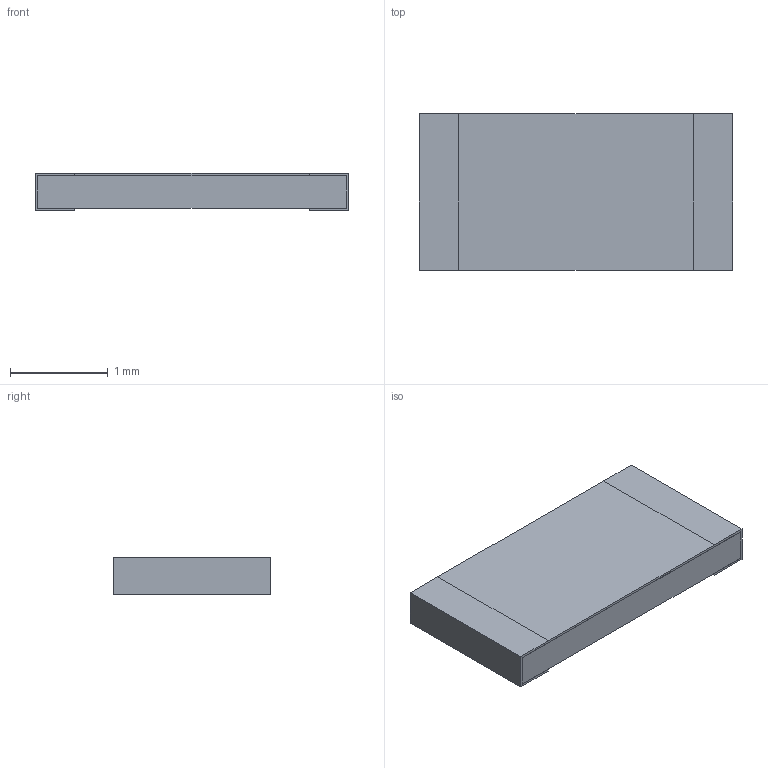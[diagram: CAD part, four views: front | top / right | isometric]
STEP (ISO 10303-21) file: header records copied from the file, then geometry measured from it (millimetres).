
FILE_DESCRIPTION(('STEP AP203'), '1');
FILE_NAME('栖闉罻', '', ('UNSPECIFIED'), ('UNSPECIFIED'), 'ASCON STEP Converter 1.6', 'ASCON Math Kernel', '');
FILE_SCHEMA(('CONFIG_CONTROL_DESIGN'));
Length unit declared in the file: millimetre
Assembly tree (1 placements, depth 2):
  (unnamed)
    (unnamed)
Bounding box: 3.2 x 1.6 x 0.38 mm (x, y, z)
Volume: 1.8 mm3; surface area: 28.8 mm2
Topology: 4 solids, 5 shells, 51 faces, 123 edges, 82 vertices
Faces by surface type: plane 47, cylinder 4
Entity records: 1987 total; most frequent: CARTESIAN_POINT 258, ORIENTED_EDGE 246, DIRECTION 237, EDGE_CURVE 123, LINE 115, VECTOR 115, VERTEX_POINT 82, AXIS2_PLACEMENT_3D 61
